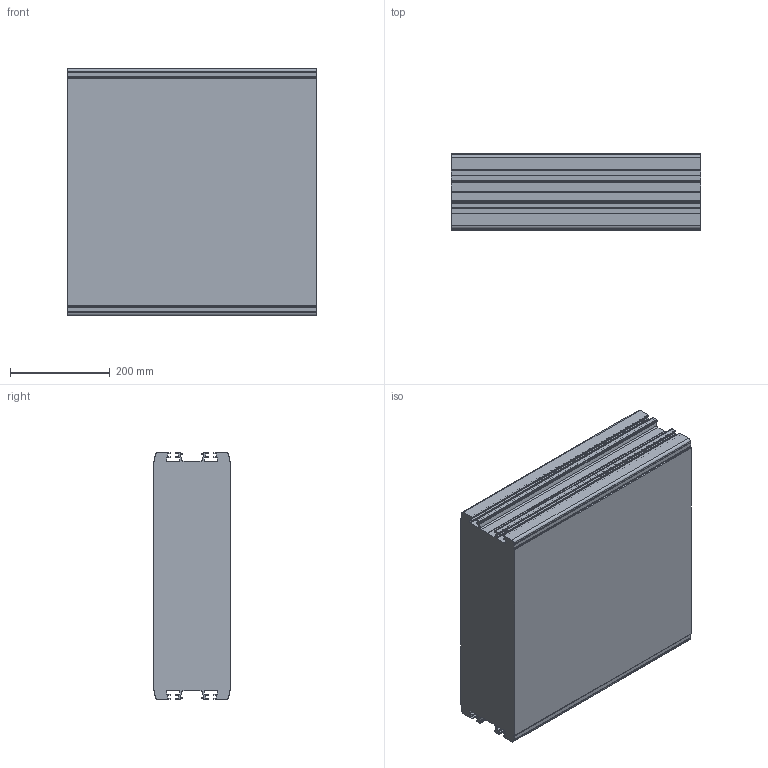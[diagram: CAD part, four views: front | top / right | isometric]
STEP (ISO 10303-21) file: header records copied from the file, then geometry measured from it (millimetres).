
FILE_DESCRIPTION (( 'STEP AP214' ), '1' );
FILE_NAME ('F2-1800-D500.STEP', '2016-02-16T13:03:08', ( '' ), ( '' ), 'SwSTEP 2.0', 'SolidWorks 2014', '' );
FILE_SCHEMA (( 'AUTOMOTIVE_DESIGN' ));
Length unit declared in the file: millimetre
Products named in the file (1): F2-1800-D500
Bounding box: 500 x 153.4 x 494 mm (x, y, z)
Volume: 36362643.9 mm3; surface area: 988060.9 mm2
Topology: 1 solids, 1 shells, 216 faces, 642 edges, 428 vertices
Faces by surface type: plane 124, cylinder 92
Entity records: 7304 total; most frequent: CARTESIAN_POINT 1287, ORIENTED_EDGE 1284, DIRECTION 1260, EDGE_CURVE 642, VECTOR 458, LINE 458, VERTEX_POINT 428, AXIS2_PLACEMENT_3D 401
